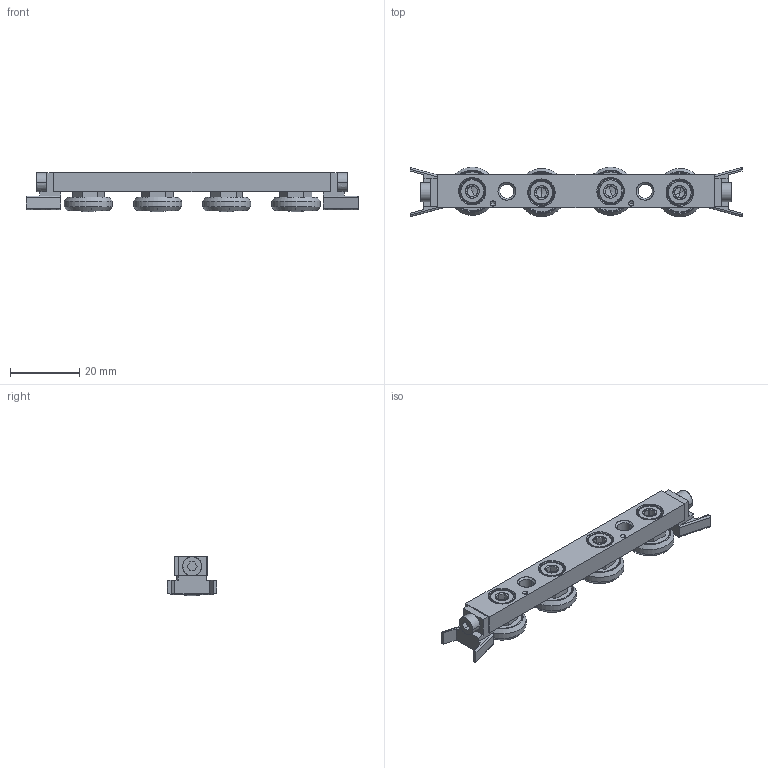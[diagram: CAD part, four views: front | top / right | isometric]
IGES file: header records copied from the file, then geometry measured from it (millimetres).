
Start section: SolidWorks IGES file using analytic representation for surfaces
Global section: file name: E:\J-00018 - L1918-L1963 LCompact Rail\L1918_v2\L1918.CSW18_v2\L1918.CSW18_IGES\L1918.CSW18-80-2RSUB.igs; native system: SolidWorks 2017; preprocessor: SolidWorks 2017; author: liam_; date: 190629.230459; units: millimetre
Bounding box: 96 x 14.32 x 11.54 mm (x, y, z)
Surface area: 7301.5 mm2 (no closed solid volume)
Topology: 0 solids, 0 shells, 412 faces, 5266 edges, 5242 vertices
Faces by surface type: bspline 228, revolution 184
